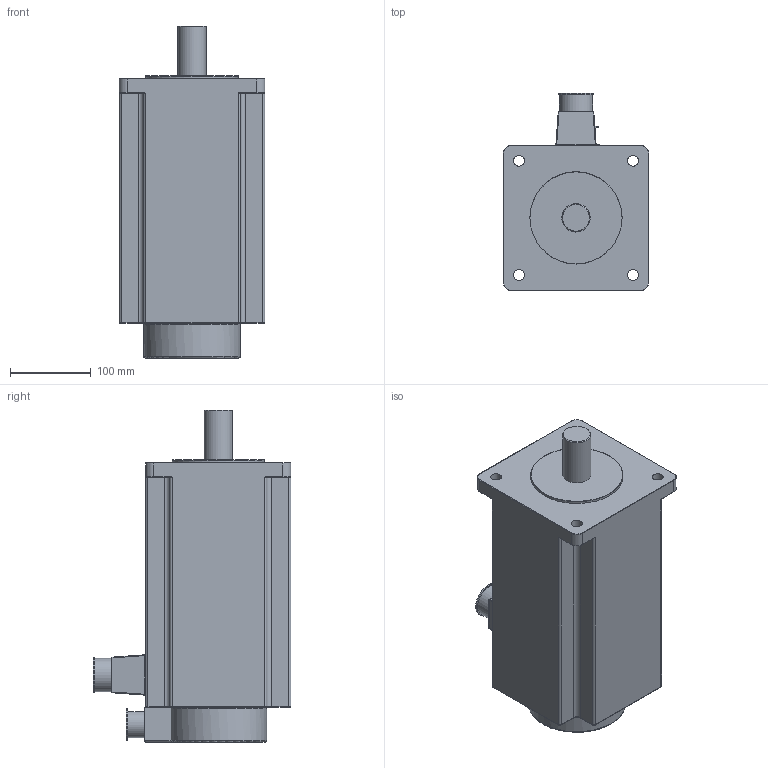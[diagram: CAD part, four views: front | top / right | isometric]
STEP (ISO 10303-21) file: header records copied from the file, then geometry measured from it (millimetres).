
FILE_DESCRIPTION(/* description */ (''),/* implementation_level */ '2;1');
FILE_NAME(/* name */ '180MAH48015.stp',/* time_stamp */ '2019-11-22T13:57:20+08:00',/* author */ (''),/* organization */ (''),/* preprocessor_version */ 'ST-DEVELOPER v16',/* originating_system */ 'SIEMENS PLM Software NX 10.0',/* authorisation */ '');
FILE_SCHEMA (('CONFIG_CONTROL_DESIGN'));
Length unit declared in the file: millimetre
Products named in the file (1): 180MAH48015
Bounding box: 180 x 245 x 411.01 mm (x, y, z)
Volume: 9566706.4 mm3; surface area: 320965.5 mm2
Topology: 1 solids, 1 shells, 160 faces, 365 edges, 207 vertices
Faces by surface type: cylinder 74, plane 34, torus 34, bspline 12, sphere 4, cone 2
Full cylindrical faces by diameter (mm): 13.5 x4, 32 x1, 35 x1, 39 x1, 41 x1, 44 x1, 114.3 x1
Entity records: 4538 total; most frequent: CARTESIAN_POINT 943, DIRECTION 801, ORIENTED_EDGE 676, EDGE_CURVE 338, AXIS2_PLACEMENT_3D 334, VERTEX_POINT 201, EDGE_LOOP 189, CIRCLE 175
